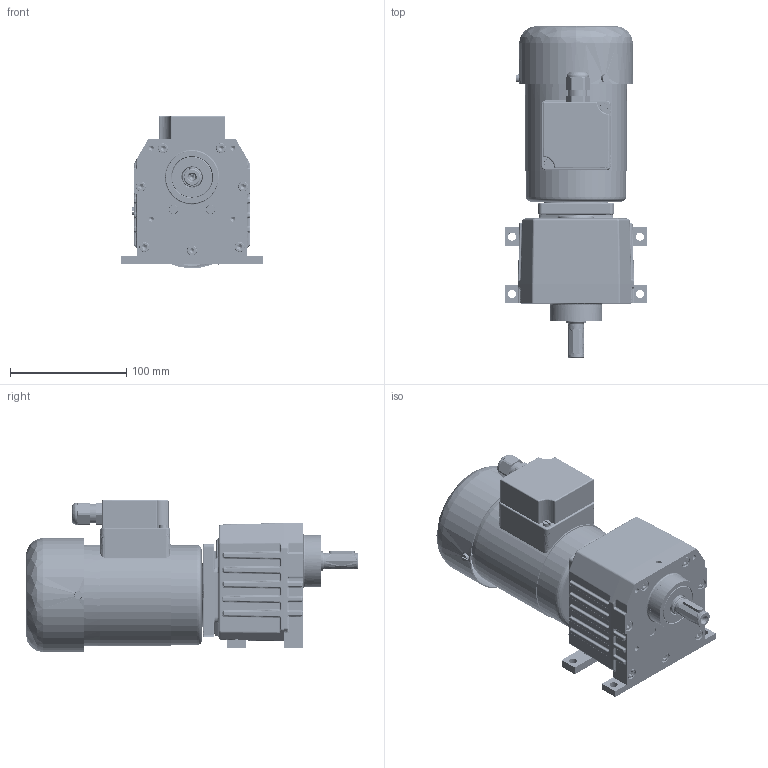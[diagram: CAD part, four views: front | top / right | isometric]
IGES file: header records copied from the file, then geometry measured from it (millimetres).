
Global section: file name: G239_G269-03-4_B3_B3B14_KK_C; native system: unknown; preprocessor: unknown; author: unknown; organization: unknown; date: 20220204.140531; units: millimetre
Bounding box: 122 x 285.4 x 130.99 mm (x, y, z)
Volume: 1271317 mm3; surface area: 298500.4 mm2
Topology: 86 solids, 91 shells, 2887 faces, 7461 edges, 4734 vertices
Faces by surface type: bspline 2887
